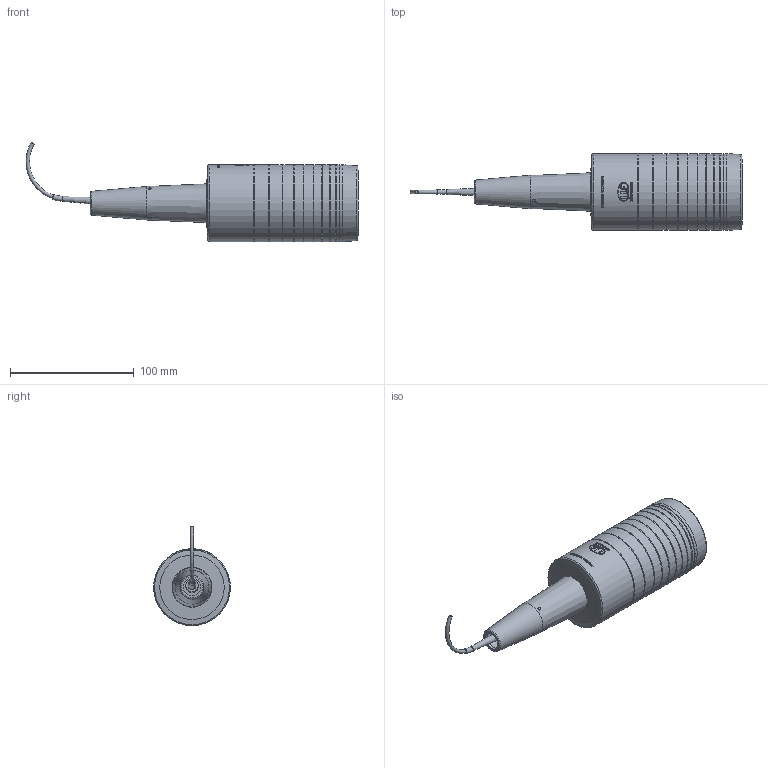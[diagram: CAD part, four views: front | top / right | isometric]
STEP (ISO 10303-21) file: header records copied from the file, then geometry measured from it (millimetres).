
FILE_DESCRIPTION (( 'STEP AP214' ), '1' );
FILE_NAME ('IFS2405-28 v2.STEP', '2016-11-15T14:10:48', ( '' ), ( '' ), 'SwSTEP 2.0', 'SolidWorks 2016', '' );
FILE_SCHEMA (( 'AUTOMOTIVE_DESIGN' ));
Length unit declared in the file: millimetre
Products named in the file (1): IFS2405-28 v2
Bounding box: 267.94 x 62 x 80.16 mm (x, y, z)
Volume: 414810 mm3; surface area: 40127.9 mm2
Topology: 1 solids, 2 shells, 594 faces, 1590 edges, 1056 vertices
Faces by surface type: bspline 315, plane 178, cylinder 76, torus 20, cone 5
Full cylindrical faces by diameter (mm): 0.05 x1, 2.5 x3, 6.4 x1, 10 x1, 14 x1, 51.1 x1, 62 x11
Entity records: 44287 total; most frequent: CARTESIAN_POINT 32061, ORIENTED_EDGE 3036, EDGE_CURVE 1518, DIRECTION 1458, VERTEX_POINT 1036, B_SPLINE_CURVE_WITH_KNOTS 744, EDGE_LOOP 696, VECTOR 640
